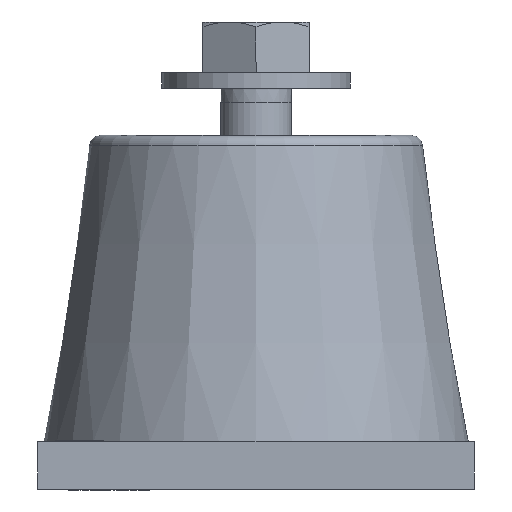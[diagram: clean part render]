
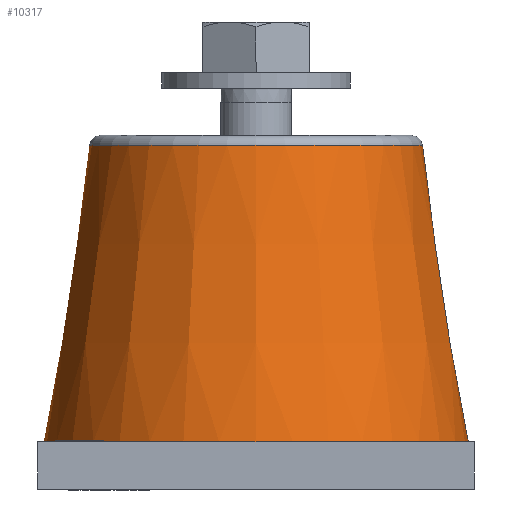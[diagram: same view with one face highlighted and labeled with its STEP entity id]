
A CAD part, front view. The second image highlights one B-rep face of the part: STEP entity #10317.
In plain terms, the highlighted conical face has half-angle 8.746 degrees and reference radius 25.503 mm.
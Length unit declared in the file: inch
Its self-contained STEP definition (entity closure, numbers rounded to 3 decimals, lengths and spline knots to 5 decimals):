
#4196=CARTESIAN_POINT('',(1.125,0.,0.25));
#4197=VERTEX_POINT('',#4196);
#4198=CARTESIAN_POINT('',(0.,0.,0.25));
#4199=DIRECTION('',(0.0,0.0,-1.0));
#4200=DIRECTION('',(1.0,0.0,0.0));
#4201=AXIS2_PLACEMENT_3D('',#4198,#4199,#4200);
#4202=CIRCLE('',#4201,1.125);
#4203=EDGE_CURVE('',#4197,#4197,#4202,.T.);
#10291=CARTESIAN_POINT('',(0.88315,0.,1.822));
#10292=VERTEX_POINT('',#10291);
#10293=CARTESIAN_POINT('',(0.,0.,1.822));
#10294=DIRECTION('',(0.0,0.0,-1.0));
#10295=DIRECTION('',(1.0,0.0,0.0));
#10296=AXIS2_PLACEMENT_3D('',#10293,#10294,#10295);
#10297=CIRCLE('',#10296,0.88315);
#10298=EDGE_CURVE('',#10292,#10292,#10297,.T.);
#10306=CARTESIAN_POINT('',(0.,0.,1.036));
#10307=DIRECTION('',(0.0,0.0,-1.0));
#10308=DIRECTION('',(1.0,0.0,0.0));
#10309=AXIS2_PLACEMENT_3D('',#10306,#10307,#10308);
#10310=CONICAL_SURFACE('',#10309,1.00408,8.746);
#10311=ORIENTED_EDGE('',*,*,#4203,.F.);
#10312=EDGE_LOOP('',(#10311));
#10313=FACE_OUTER_BOUND('',#10312,.T.);
#10314=ORIENTED_EDGE('',*,*,#10298,.T.);
#10315=EDGE_LOOP('',(#10314));
#10316=FACE_BOUND('',#10315,.T.);
#10317=ADVANCED_FACE('',(#10313,#10316),#10310,.T.);
